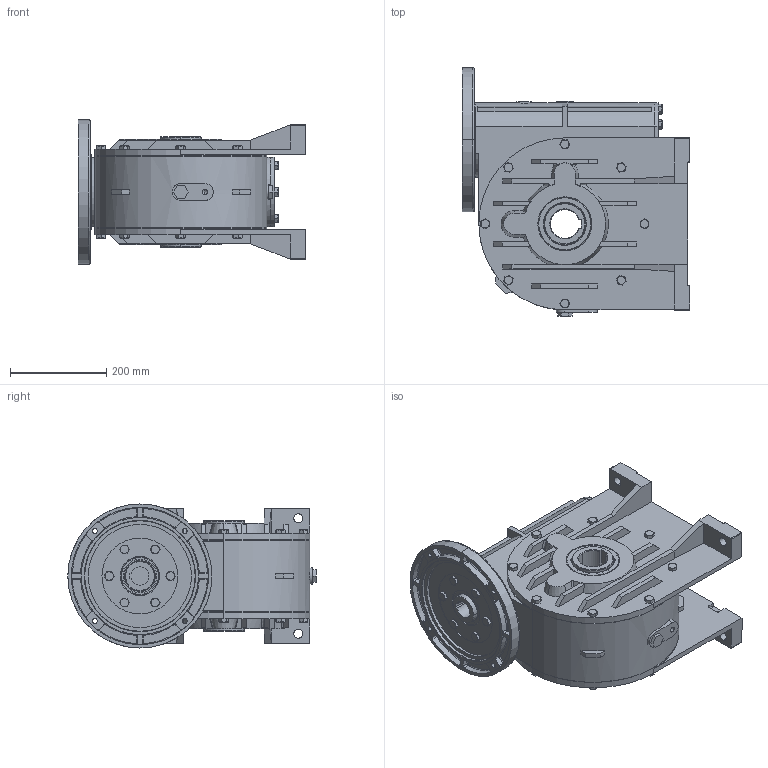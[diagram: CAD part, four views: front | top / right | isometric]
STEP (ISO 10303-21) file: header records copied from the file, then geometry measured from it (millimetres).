
FILE_DESCRIPTION (( 'STEP AP203' ), '1' );
FILE_NAME ('3F002537.STEP', '2012-07-26T07:56:03', ( 'Amministratore' ), ( 'SerteK sas' ), 'SwSTEP 2.0', 'SolidWorks 2009', '' );
FILE_SCHEMA (( 'CONFIG_CONTROL_DESIGN' ));
Products named in the file (1): 3F002537
Bounding box: 473.5 x 517 x 300 mm (x, y, z)
Surface area: 2050497.1 mm2 (no closed solid volume)
Topology: 0 solids, 29 shells, 1950 faces, 4985 edges, 3170 vertices
Faces by surface type: plane 720, cylinder 572, cone 356, bspline 302
Entity records: 84294 total; most frequent: CARTESIAN_POINT 38246, ORIENTED_EDGE 9850, DIRECTION 9427, EDGE_CURVE 4937, AXIS2_PLACEMENT_3D 3659, VERTEX_POINT 3170, EDGE_LOOP 2161, VECTOR 2109
